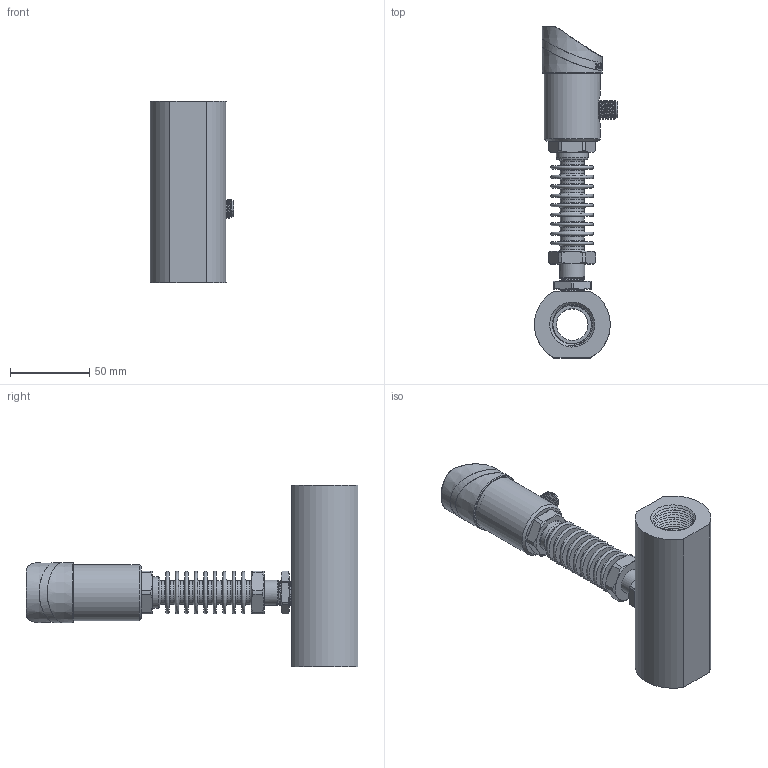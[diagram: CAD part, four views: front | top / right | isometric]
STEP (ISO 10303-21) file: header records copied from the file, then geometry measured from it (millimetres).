
FILE_DESCRIPTION( (''), '2;1');
FILE_NAME( 'QTKE_DN20_female-thread_high-temp.step', '2024-10-15T13:47:20+08:00', (''), (''), '', '', '');
FILE_SCHEMA (('AUTOMOTIVE_DESIGN { 1 0 10303 214 3 1 1 1 }'));
Products named in the file (1): QTKE DN20_female-thread_high-temp
Bounding box: 52.62 x 210 x 115 mm (x, y, z)
Volume: 195010.6 mm3; surface area: 74684.6 mm2
Topology: 5 solids, 5 shells, 1000 faces, 2555 edges, 1656 vertices
Faces by surface type: plane 404, cylinder 169, extrusion 160, cone 109, bspline 77, torus 60, sphere 21
Full cylindrical faces by diameter (mm): 1.689 x1, 2 x1, 2.7 x6, 3.5 x5, 12 x1, 13 x1, 15 x11, 15.9 x1, 20 x2, 23 x3, 24.5 x2, 26 x5, 31.7 x1, 32 x1, 34 x1, 34.2 x1, 35.5 x2
Entity records: 46483 total; most frequent: CARTESIAN_POINT 19637, ORIENTED_EDGE 4732, DIRECTION 4048, EDGE_CURVE 2366, VERTEX_POINT 1600, AXIS2_PLACEMENT_3D 1438, EDGE_LOOP 1234, VECTOR 1172
